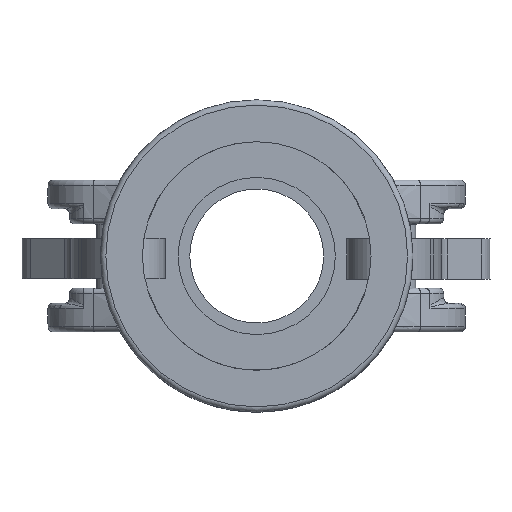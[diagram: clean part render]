
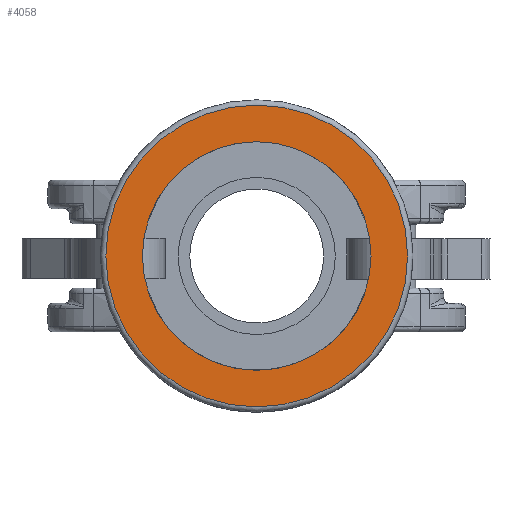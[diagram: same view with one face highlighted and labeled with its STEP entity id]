
A CAD part, left-side view. The second image highlights one B-rep face of the part: STEP entity #4058.
In plain terms, the highlighted planar face has unit normal (-1, 0, 0) as drawn and (1, 0, 0) by its records, which use the part's own axes.
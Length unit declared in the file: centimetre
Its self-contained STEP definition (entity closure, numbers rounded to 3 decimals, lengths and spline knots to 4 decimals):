
#693=PLANE('',#4344);
#812=CIRCLE('',#4341,2.1463);
#814=CIRCLE('',#4345,1.6256);
#1397=VERTEX_POINT('',#9110);
#1399=VERTEX_POINT('',#9116);
#2013=EDGE_CURVE('',#1397,#1397,#812,.T.);
#2015=EDGE_CURVE('',#1399,#1399,#814,.T.);
#2732=ORIENTED_EDGE('',*,*,#2015,.T.);
#2733=ORIENTED_EDGE('',*,*,#2013,.F.);
#3531=EDGE_LOOP('',(#2732));
#3532=EDGE_LOOP('',(#2733));
#3802=FACE_BOUND('',#3531,.T.);
#3803=FACE_BOUND('',#3532,.T.);
#4058=ADVANCED_FACE('',(#3802,#3803),#693,.T.);
#4341=AXIS2_PLACEMENT_3D('',#9109,#4872,#4873);
#4344=AXIS2_PLACEMENT_3D('',#9114,#4878,$);
#4345=AXIS2_PLACEMENT_3D('',#9115,#4879,#4880);
#4872=DIRECTION('',(-1.,0.,0.));
#4873=DIRECTION('',(0.,0.,2.146));
#4878=DIRECTION('',(1.,0.,0.));
#4879=DIRECTION('',(-1.,0.,0.));
#4880=DIRECTION('',(0.,0.,-1.626));
#9109=CARTESIAN_POINT('',(0.,0.,0.));
#9110=CARTESIAN_POINT('',(0.,0.,-2.1463));
#9114=CARTESIAN_POINT('',(0.,0.,0.));
#9115=CARTESIAN_POINT('',(0.,0.,0.));
#9116=CARTESIAN_POINT('',(0.,0.,-1.6256));
